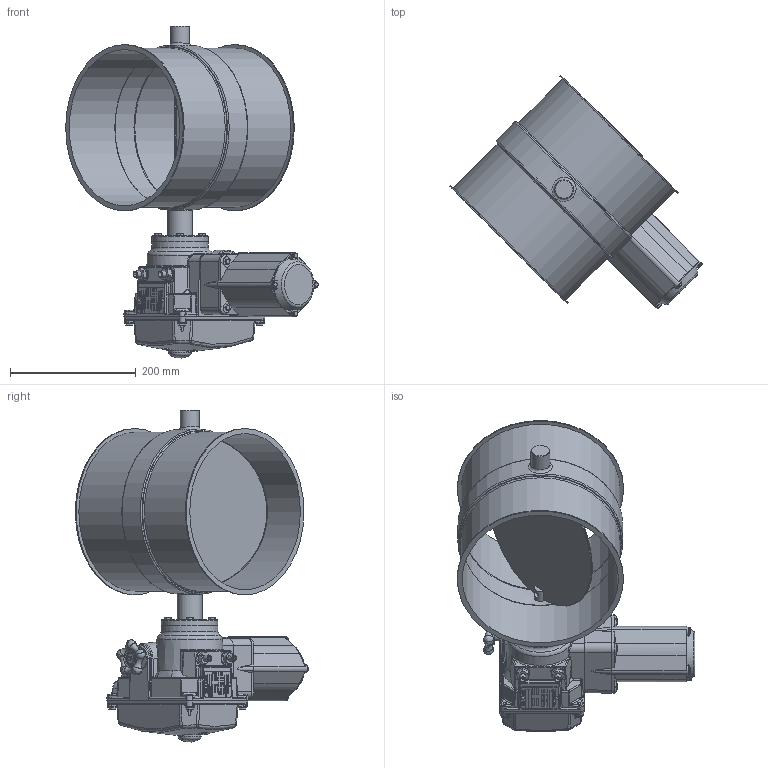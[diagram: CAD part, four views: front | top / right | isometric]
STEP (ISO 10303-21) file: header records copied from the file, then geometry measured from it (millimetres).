
FILE_DESCRIPTION((''),'2;1');
FILE_NAME('U:\Wolfgang\Marcel-3D\fertig\Kapitel 8\2521216.stp','2012-01-13T11:13:46',('iwienholt'),(''),'Autodesk Inventor 2010','Autodesk Inventor 2010','');
FILE_SCHEMA(('AUTOMOTIVE_DESIGN { 1 0 10303 214 1 1 1 1 }'));
Length unit declared in the file: millimetre
Products named in the file (8): 2521216; Bolzen D20; Scheibe250b; 2521210-1; D20 Antrieb LE-10; DIN EN ISO 4018 M6x25; LEB100cc; BuchseD20 90-50
Assembly tree (11 placements, depth 3):
  2521216
    Bolzen D20  x2
    Scheibe250b
    2521210-1
    D20 Antrieb LE-10
      DIN EN ISO 4018 M6x25  x4
      LEB100cc
      BuchseD20 90-50
Bounding box: 402.35 x 371.75 x 528.82 mm (x, y, z)
Volume: 5249850.3 mm3; surface area: 875665.2 mm2
Topology: 10 solids, 10 shells, 1489 faces, 3758 edges, 2362 vertices
Faces by surface type: plane 746, cylinder 290, bspline 239, torus 86, cone 83, sphere 45
Full cylindrical faces by diameter (mm): 5 x4, 5.1 x8, 6 x12, 6.9 x8, 10 x4, 15 x1, 16 x1, 17 x1, 18.6 x2, 20 x6, 20.5 x1, 30 x2, 35 x1, 40 x2, 42 x1, 90 x1, 249 x3, 250 x1, 253 x2, 258 x1, 259 x1, 263 x1, 265 x2
Entity records: 52268 total; most frequent: CARTESIAN_POINT 19624, ORIENTED_EDGE 6736, DIRECTION 5878, EDGE_CURVE 3368, VERTEX_POINT 2223, AXIS2_PLACEMENT_3D 2064, VECTOR 1750, LINE 1750
